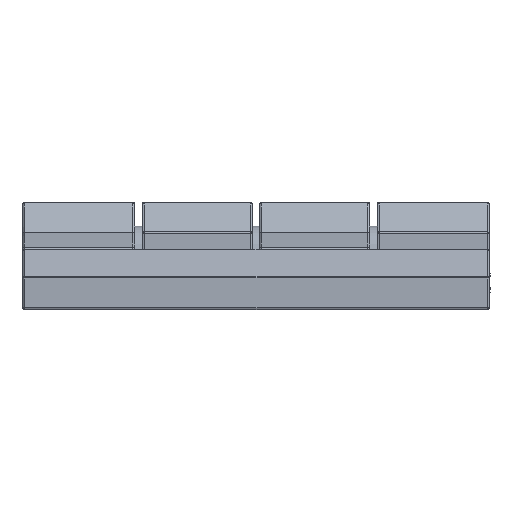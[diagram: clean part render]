
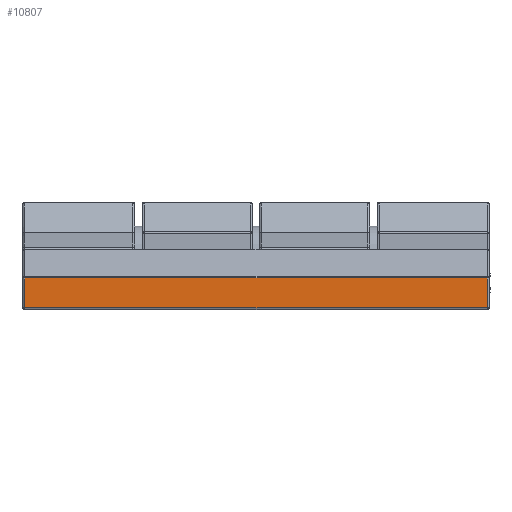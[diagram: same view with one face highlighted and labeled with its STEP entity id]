
A CAD part, left-side view. The second image highlights one B-rep face of the part: STEP entity #10807.
In plain terms, the highlighted planar face has unit normal (-1, 0, 0).
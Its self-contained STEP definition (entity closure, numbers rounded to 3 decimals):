
#541 = DIRECTION ( 'NONE',  ( 0., 0., -1. ) ) ;
#1261 = ORIENTED_EDGE ( 'NONE', *, *, #7130, .T. ) ;
#1327 = CARTESIAN_POINT ( 'NONE',  ( -34., 0.2, -2.607 ) ) ;
#1487 = CARTESIAN_POINT ( 'NONE',  ( -34., 50., -2.607 ) ) ;
#2322 = EDGE_CURVE ( 'NONE', #15929, #2427, #11463, .T. ) ;
#2427 = VERTEX_POINT ( 'NONE', #12973 ) ;
#3209 = VECTOR ( 'NONE', #13309, 1000. ) ;
#4005 = VECTOR ( 'NONE', #5238, 1000. ) ;
#4220 = VERTEX_POINT ( 'NONE', #7699 ) ;
#4404 = CARTESIAN_POINT ( 'NONE',  ( -34., 49.8, -6. ) ) ;
#4410 = LINE ( 'NONE', #13027, #15050 ) ;
#5238 = DIRECTION ( 'NONE',  ( 0., 0., -1. ) ) ;
#5466 = EDGE_LOOP ( 'NONE', ( #16278, #14525, #16462, #1261 ) ) ;
#5779 = CARTESIAN_POINT ( 'NONE',  ( -34., 0.2, -6. ) ) ;
#7130 = EDGE_CURVE ( 'NONE', #15493, #15929, #13448, .T. ) ;
#7178 = CARTESIAN_POINT ( 'NONE',  ( -34., 50., -6. ) ) ;
#7699 = CARTESIAN_POINT ( 'NONE',  ( -34., 0.2, -5.8 ) ) ;
#8496 = DIRECTION ( 'NONE',  ( 1., 0., 0. ) ) ;
#8810 = LINE ( 'NONE', #5779, #15954 ) ;
#10807 = ADVANCED_FACE ( 'NONE', ( #10965 ), #15188, .F. ) ;
#10823 = CARTESIAN_POINT ( 'NONE',  ( -34., 49.8, -2.607 ) ) ;
#10965 = FACE_OUTER_BOUND ( 'NONE', #5466, .T. ) ;
#11463 = LINE ( 'NONE', #4404, #4005 ) ;
#12480 = EDGE_CURVE ( 'NONE', #4220, #15493, #8810, .T. ) ;
#12967 = DIRECTION ( 'NONE',  ( 0., -1., 0. ) ) ;
#12973 = CARTESIAN_POINT ( 'NONE',  ( -34., 49.8, -5.8 ) ) ;
#13027 = CARTESIAN_POINT ( 'NONE',  ( -34., 50., -5.8 ) ) ;
#13309 = DIRECTION ( 'NONE',  ( 0., 1., 0. ) ) ;
#13448 = LINE ( 'NONE', #1487, #3209 ) ;
#14155 = AXIS2_PLACEMENT_3D ( 'NONE', #7178, #8496, #541 ) ;
#14304 = EDGE_CURVE ( 'NONE', #2427, #4220, #4410, .T. ) ;
#14525 = ORIENTED_EDGE ( 'NONE', *, *, #14304, .T. ) ;
#15050 = VECTOR ( 'NONE', #12967, 1000. ) ;
#15117 = DIRECTION ( 'NONE',  ( 0., 0., 1. ) ) ;
#15188 = PLANE ( 'NONE',  #14155 ) ;
#15493 = VERTEX_POINT ( 'NONE', #1327 ) ;
#15929 = VERTEX_POINT ( 'NONE', #10823 ) ;
#15954 = VECTOR ( 'NONE', #15117, 1000. ) ;
#16278 = ORIENTED_EDGE ( 'NONE', *, *, #2322, .T. ) ;
#16462 = ORIENTED_EDGE ( 'NONE', *, *, #12480, .T. ) ;
